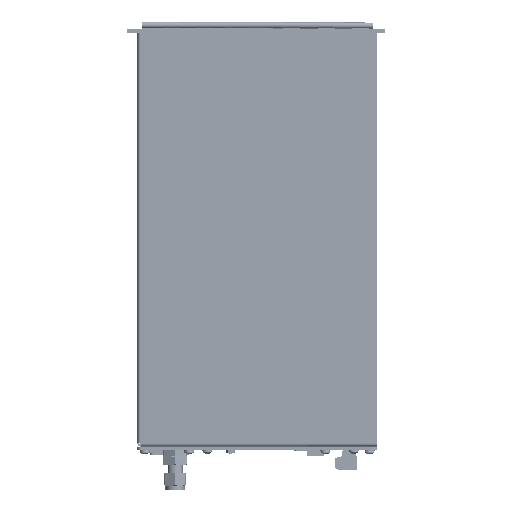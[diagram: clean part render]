
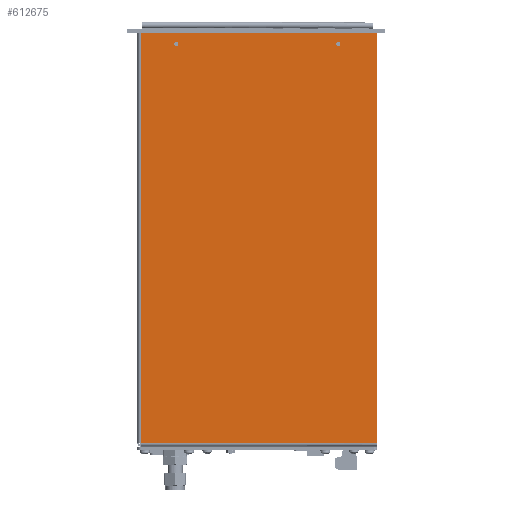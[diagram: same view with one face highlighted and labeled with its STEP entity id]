
A CAD part, left-side view. The second image highlights one B-rep face of the part: STEP entity #612675.
In plain terms, the highlighted planar face has unit normal (-1, 0, 0).
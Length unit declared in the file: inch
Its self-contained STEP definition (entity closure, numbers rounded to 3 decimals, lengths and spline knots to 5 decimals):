
#9745 = ORIENTED_EDGE ( 'NONE', *, *, #689079, .F. ) ;
#15613 = EDGE_CURVE ( 'NONE', #210552, #436450, #658528, .T. ) ;
#15896 = AXIS2_PLACEMENT_3D ( 'NONE', #836299, #701397, #557610 ) ;
#22187 = VECTOR ( 'NONE', #128384, 39.37008 ) ;
#30638 = DIRECTION ( 'NONE',  ( 0., 0., 1. ) ) ;
#32495 = DIRECTION ( 'NONE',  ( 0., 0., 1. ) ) ;
#65296 = VERTEX_POINT ( 'NONE', #160926 ) ;
#74627 = EDGE_CURVE ( 'NONE', #65296, #603111, #446634, .T. ) ;
#85754 = CARTESIAN_POINT ( 'NONE',  ( -5.46593, -0.91593, 11.60419 ) ) ;
#95565 = DIRECTION ( 'NONE',  ( -1., 0., 0. ) ) ;
#98316 = CARTESIAN_POINT ( 'NONE',  ( -5.46593, -0.91593, 11.51319 ) ) ;
#101841 = AXIS2_PLACEMENT_3D ( 'NONE', #302456, #95565, #32495 ) ;
#111422 = CARTESIAN_POINT ( 'NONE',  ( -5.46593, 4.90707, 23.19319 ) ) ;
#128384 = DIRECTION ( 'NONE',  ( 0., -1., 0. ) ) ;
#135722 = VECTOR ( 'NONE', #516503, 39.37008 ) ;
#143653 = VERTEX_POINT ( 'NONE', #212701 ) ;
#156924 = LINE ( 'NONE', #98316, #135722 ) ;
#160926 = CARTESIAN_POINT ( 'NONE',  ( -5.46593, 0.20707, 23.13069 ) ) ;
#173606 = EDGE_LOOP ( 'NONE', ( #379676, #9745 ) ) ;
#179103 = VERTEX_POINT ( 'NONE', #85754 ) ;
#184523 = CARTESIAN_POINT ( 'NONE',  ( -5.46593, -0.91593, 11.51319 ) ) ;
#195921 = CARTESIAN_POINT ( 'NONE',  ( -5.46593, 5.94307, 11.60419 ) ) ;
#199220 = EDGE_CURVE ( 'NONE', #143653, #179103, #263448, .T. ) ;
#210552 = VERTEX_POINT ( 'NONE', #710461 ) ;
#212701 = CARTESIAN_POINT ( 'NONE',  ( -5.46593, 5.94307, 11.60419 ) ) ;
#219788 = ORIENTED_EDGE ( 'NONE', *, *, #264899, .T. ) ;
#230811 = VERTEX_POINT ( 'NONE', #692889 ) ;
#245113 = AXIS2_PLACEMENT_3D ( 'NONE', #111422, #651215, #30638 ) ;
#254303 = DIRECTION ( 'NONE',  ( 0., 0., 1. ) ) ;
#259870 = EDGE_CURVE ( 'NONE', #143653, #436450, #469299, .T. ) ;
#263448 = LINE ( 'NONE', #195921, #22187 ) ;
#264899 = EDGE_CURVE ( 'NONE', #179103, #210552, #156924, .T. ) ;
#300010 = ORIENTED_EDGE ( 'NONE', *, *, #199220, .T. ) ;
#302456 = CARTESIAN_POINT ( 'NONE',  ( -5.46593, 0.20707, 23.19319 ) ) ;
#306178 = PLANE ( 'NONE',  #831722 ) ;
#318929 = EDGE_LOOP ( 'NONE', ( #547660, #413866 ) ) ;
#372966 = CARTESIAN_POINT ( 'NONE',  ( -5.46593, 4.90707, 23.13069 ) ) ;
#379346 = EDGE_CURVE ( 'NONE', #603111, #65296, #463727, .T. ) ;
#379676 = ORIENTED_EDGE ( 'NONE', *, *, #587019, .F. ) ;
#413866 = ORIENTED_EDGE ( 'NONE', *, *, #74627, .F. ) ;
#422876 = DIRECTION ( 'NONE',  ( 0., 0., 1. ) ) ;
#436450 = VERTEX_POINT ( 'NONE', #865812 ) ;
#446634 = CIRCLE ( 'NONE', #101841, 0.0625 ) ;
#463727 = CIRCLE ( 'NONE', #521533, 0.0625 ) ;
#469299 = LINE ( 'NONE', #490431, #603539 ) ;
#486130 = CARTESIAN_POINT ( 'NONE',  ( -5.46593, 0.20707, 23.25569 ) ) ;
#490431 = CARTESIAN_POINT ( 'NONE',  ( -5.46593, 5.94307, 11.51319 ) ) ;
#510071 = EDGE_LOOP ( 'NONE', ( #300010, #219788, #585810, #766314 ) ) ;
#516503 = DIRECTION ( 'NONE',  ( 0., 0., 1. ) ) ;
#521533 = AXIS2_PLACEMENT_3D ( 'NONE', #533123, #744356, #254303 ) ;
#521931 = FACE_BOUND ( 'NONE', #173606, .T. ) ;
#526391 = DIRECTION ( 'NONE',  ( 1., 0., 0. ) ) ;
#531069 = VERTEX_POINT ( 'NONE', #372966 ) ;
#533123 = CARTESIAN_POINT ( 'NONE',  ( -5.46593, 0.20707, 23.19319 ) ) ;
#547660 = ORIENTED_EDGE ( 'NONE', *, *, #379346, .F. ) ;
#557610 = DIRECTION ( 'NONE',  ( 0., 0., 1. ) ) ;
#585810 = ORIENTED_EDGE ( 'NONE', *, *, #15613, .T. ) ;
#587019 = EDGE_CURVE ( 'NONE', #230811, #531069, #589873, .T. ) ;
#589824 = CIRCLE ( 'NONE', #245113, 0.0625 ) ;
#589873 = CIRCLE ( 'NONE', #15896, 0.0625 ) ;
#591072 = CARTESIAN_POINT ( 'NONE',  ( -5.46593, -0.91593, 23.51319 ) ) ;
#595489 = DIRECTION ( 'NONE',  ( 0., 1., 0. ) ) ;
#603111 = VERTEX_POINT ( 'NONE', #486130 ) ;
#603539 = VECTOR ( 'NONE', #422876, 39.37008 ) ;
#612675 = ADVANCED_FACE ( 'NONE', ( #859277, #521931, #733214 ), #306178, .F. ) ;
#651215 = DIRECTION ( 'NONE',  ( -1., 0., 0. ) ) ;
#656821 = DIRECTION ( 'NONE',  ( 0., 0., -1. ) ) ;
#658528 = LINE ( 'NONE', #591072, #836447 ) ;
#689079 = EDGE_CURVE ( 'NONE', #531069, #230811, #589824, .T. ) ;
#692889 = CARTESIAN_POINT ( 'NONE',  ( -5.46593, 4.90707, 23.25569 ) ) ;
#701397 = DIRECTION ( 'NONE',  ( -1., 0., 0. ) ) ;
#710461 = CARTESIAN_POINT ( 'NONE',  ( -5.46593, -0.91593, 23.51319 ) ) ;
#733214 = FACE_OUTER_BOUND ( 'NONE', #510071, .T. ) ;
#744356 = DIRECTION ( 'NONE',  ( -1., 0., 0. ) ) ;
#766314 = ORIENTED_EDGE ( 'NONE', *, *, #259870, .F. ) ;
#831722 = AXIS2_PLACEMENT_3D ( 'NONE', #184523, #526391, #656821 ) ;
#836299 = CARTESIAN_POINT ( 'NONE',  ( -5.46593, 4.90707, 23.19319 ) ) ;
#836447 = VECTOR ( 'NONE', #595489, 39.37008 ) ;
#859277 = FACE_BOUND ( 'NONE', #318929, .T. ) ;
#865812 = CARTESIAN_POINT ( 'NONE',  ( -5.46593, 5.94307, 23.51319 ) ) ;
